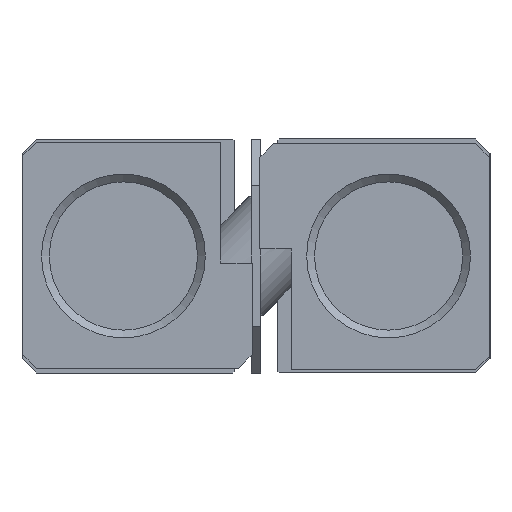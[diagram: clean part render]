
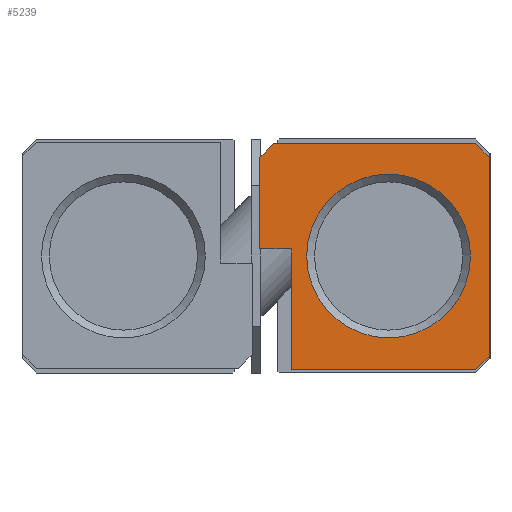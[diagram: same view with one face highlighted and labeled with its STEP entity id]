
A CAD part, left-side view. The second image highlights one B-rep face of the part: STEP entity #5239.
In plain terms, the highlighted planar face has unit normal (-1, 0, 0).
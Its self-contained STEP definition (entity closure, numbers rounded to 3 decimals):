
#212=CIRCLE('',#5577,5.25);
#458=ORIENTED_EDGE('',*,*,#1842,.F.);
#459=ORIENTED_EDGE('',*,*,#1824,.F.);
#460=ORIENTED_EDGE('',*,*,#1841,.F.);
#461=ORIENTED_EDGE('',*,*,#1839,.F.);
#462=ORIENTED_EDGE('',*,*,#1837,.F.);
#463=ORIENTED_EDGE('',*,*,#1835,.F.);
#464=ORIENTED_EDGE('',*,*,#1833,.F.);
#465=ORIENTED_EDGE('',*,*,#1831,.F.);
#466=ORIENTED_EDGE('',*,*,#1829,.F.);
#467=ORIENTED_EDGE('',*,*,#1827,.F.);
#1824=EDGE_CURVE('',#2529,#2530,#3049,.T.);
#1827=EDGE_CURVE('',#2530,#2531,#3052,.T.);
#1829=EDGE_CURVE('',#2531,#2532,#3054,.T.);
#1831=EDGE_CURVE('',#2532,#2533,#3056,.T.);
#1833=EDGE_CURVE('',#2533,#2534,#3058,.T.);
#1835=EDGE_CURVE('',#2534,#2535,#3060,.T.);
#1837=EDGE_CURVE('',#2535,#2536,#3062,.T.);
#1839=EDGE_CURVE('',#2536,#2537,#3064,.T.);
#1841=EDGE_CURVE('',#2537,#2529,#3066,.T.);
#1842=EDGE_CURVE('',#2538,#2538,#212,.T.);
#2529=VERTEX_POINT('',#7703);
#2530=VERTEX_POINT('',#7704);
#2531=VERTEX_POINT('',#7709);
#2532=VERTEX_POINT('',#7713);
#2533=VERTEX_POINT('',#7717);
#2534=VERTEX_POINT('',#7721);
#2535=VERTEX_POINT('',#7725);
#2536=VERTEX_POINT('',#7729);
#2537=VERTEX_POINT('',#7733);
#2538=VERTEX_POINT('',#7739);
#3049=LINE('',#7702,#3568);
#3052=LINE('',#7708,#3571);
#3054=LINE('',#7712,#3573);
#3056=LINE('',#7716,#3575);
#3058=LINE('',#7720,#3577);
#3060=LINE('',#7724,#3579);
#3062=LINE('',#7728,#3581);
#3064=LINE('',#7732,#3583);
#3066=LINE('',#7736,#3585);
#3568=VECTOR('',#6153,1000.);
#3571=VECTOR('',#6158,1000.);
#3573=VECTOR('',#6162,1000.);
#3575=VECTOR('',#6166,1000.);
#3577=VECTOR('',#6170,1000.);
#3579=VECTOR('',#6174,1000.);
#3581=VECTOR('',#6178,1000.);
#3583=VECTOR('',#6182,1000.);
#3585=VECTOR('',#6186,1000.);
#4068=EDGE_LOOP('',(#458));
#4069=EDGE_LOOP('',(#459,#460,#461,#462,#463,#464,#465,#466,#467));
#4553=FACE_BOUND('',#4068,.T.);
#4554=FACE_BOUND('',#4069,.T.);
#5026=PLANE('',#5576);
#5239=ADVANCED_FACE('',(#4553,#4554),#5026,.F.);
#5576=AXIS2_PLACEMENT_3D('',#7737,#6187,#6188);
#5577=AXIS2_PLACEMENT_3D('',#7738,#6189,#6190);
#6153=DIRECTION('',(0.,-1.,0.));
#6158=DIRECTION('',(0.,-0.707,-0.707));
#6162=DIRECTION('',(0.,0.,-1.));
#6166=DIRECTION('',(0.,0.707,-0.707));
#6170=DIRECTION('',(0.,1.,0.));
#6174=DIRECTION('',(0.,0.,1.));
#6178=DIRECTION('',(0.,1.,0.));
#6182=DIRECTION('',(0.,0.,1.));
#6186=DIRECTION('',(0.,-0.707,0.707));
#6187=DIRECTION('',(1.,0.,0.));
#6188=DIRECTION('',(0.,1.,0.));
#6189=DIRECTION('',(-1.,0.,0.));
#6190=DIRECTION('',(0.,0.,1.));
#7702=CARTESIAN_POINT('',(0.,-1.12,7.2));
#7703=CARTESIAN_POINT('',(0.,-1.12,7.2));
#7704=CARTESIAN_POINT('',(0.,-14.08,7.2));
#7708=CARTESIAN_POINT('',(0.,-14.08,7.2));
#7709=CARTESIAN_POINT('',(0.,-14.95,6.33));
#7712=CARTESIAN_POINT('',(0.,-14.95,6.33));
#7713=CARTESIAN_POINT('',(0.,-14.95,-6.43));
#7716=CARTESIAN_POINT('',(0.,-14.95,-6.43));
#7717=CARTESIAN_POINT('',(0.,-14.08,-7.3));
#7720=CARTESIAN_POINT('',(0.,-14.08,-7.3));
#7721=CARTESIAN_POINT('',(0.,-2.25,-7.3));
#7724=CARTESIAN_POINT('',(0.,-2.25,-7.3));
#7725=CARTESIAN_POINT('',(0.,-2.25,0.45));
#7728=CARTESIAN_POINT('',(0.,-2.25,0.45));
#7729=CARTESIAN_POINT('',(0.,-0.25,0.45));
#7732=CARTESIAN_POINT('',(0.,-0.25,0.45));
#7733=CARTESIAN_POINT('',(0.,-0.25,6.33));
#7736=CARTESIAN_POINT('',(0.,-0.25,6.33));
#7737=CARTESIAN_POINT('',(0.,0.,0.));
#7738=CARTESIAN_POINT('',(0.,-8.5,0.));
#7739=CARTESIAN_POINT('',(0.,-8.5,5.25));
